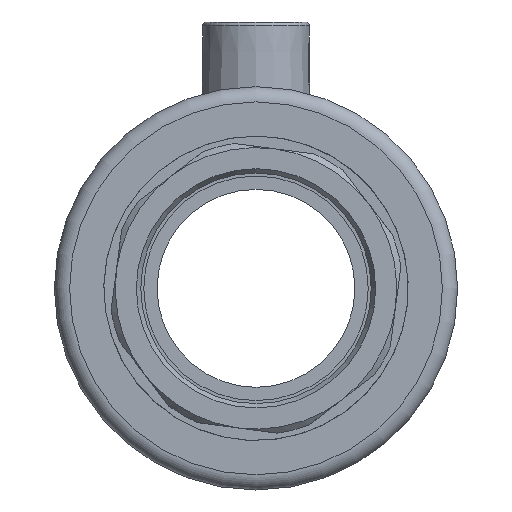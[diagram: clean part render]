
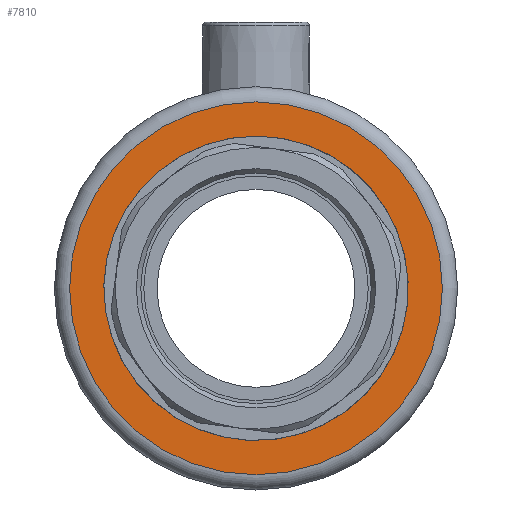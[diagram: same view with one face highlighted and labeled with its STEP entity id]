
A CAD part, left-side view. The second image highlights one B-rep face of the part: STEP entity #7810.
In plain terms, the highlighted planar face has unit normal (-1, 0, 0).
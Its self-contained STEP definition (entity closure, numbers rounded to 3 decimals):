
#866=PLANE('',#10227);
#2740=ORIENTED_EDGE('',*,*,#4078,.T.);
#2741=ORIENTED_EDGE('',*,*,#4547,.T.);
#4078=EDGE_CURVE('',#5277,#5277,#5932,.F.);
#4547=EDGE_CURVE('',#5528,#5528,#6102,.T.);
#5277=VERTEX_POINT('',#13248);
#5528=VERTEX_POINT('',#16234);
#5932=CIRCLE('',#9868,20.);
#6102=CIRCLE('',#10228,24.5);
#6614=EDGE_LOOP('',(#2740));
#6615=EDGE_LOOP('',(#2741));
#7214=FACE_BOUND('',#6614,.T.);
#7215=FACE_BOUND('',#6615,.T.);
#7810=ADVANCED_FACE('',(#7214,#7215),#866,.T.);
#9868=AXIS2_PLACEMENT_3D('',#13247,#10945,#10946);
#10227=AXIS2_PLACEMENT_3D('',#16232,#11721,#11722);
#10228=AXIS2_PLACEMENT_3D('',#16233,#11723,#11724);
#10945=DIRECTION('',(-1.,0.,0.));
#10946=DIRECTION('',(0.,0.,1.));
#11721=DIRECTION('',(-1.,0.,0.));
#11722=DIRECTION('',(0.,0.,1.));
#11723=DIRECTION('',(-1.,0.,0.));
#11724=DIRECTION('',(0.,0.,1.));
#13247=CARTESIAN_POINT('',(0.,0.,0.));
#13248=CARTESIAN_POINT('',(0.,0.,20.));
#16232=CARTESIAN_POINT('',(0.,0.,18.));
#16233=CARTESIAN_POINT('',(0.,0.,0.));
#16234=CARTESIAN_POINT('',(0.,0.,24.5));
